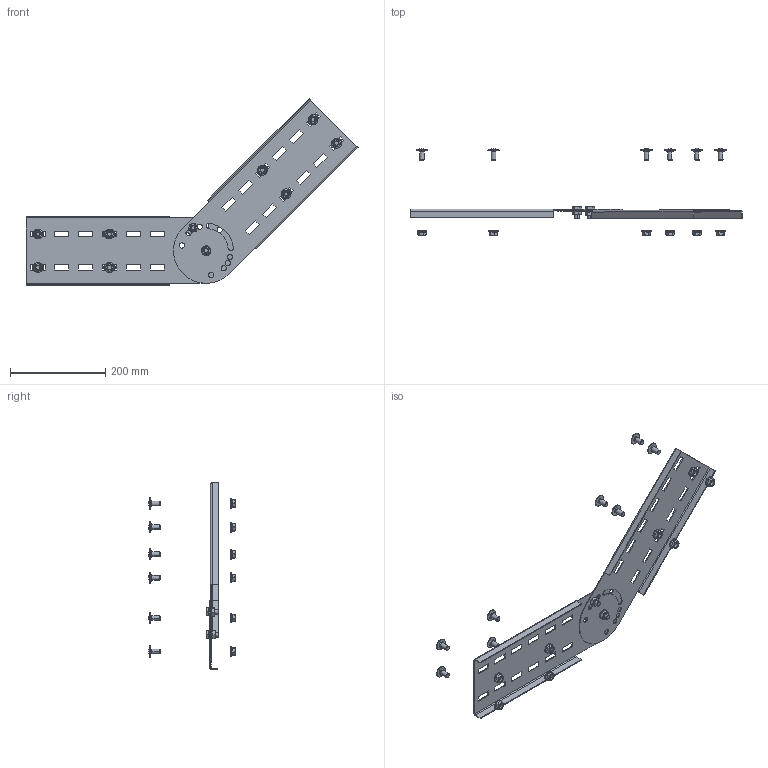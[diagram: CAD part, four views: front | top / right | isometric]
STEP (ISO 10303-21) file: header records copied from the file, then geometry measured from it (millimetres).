
FILE_DESCRIPTION(('Creo Elements/Direct Modeling STEP Export'),'2;1');
FILE_NAME('WPCV15-HDG.stp','2016-08-24T11:49:38',(''),(''),'PTC Creo Elements/Direct Modeling STEP processor for AP214 (Solid Model)','PTC Creo Elements/Direct Modeling 19.0C 15-Aug-2015 (C) Parametric Technology GmbH','');
FILE_SCHEMA(('AUTOMOTIVE_DESIGN { 1 0 10303 214 1 1 1 1 }'));
Length unit declared in the file: millimetre
Products named in the file (7): WPVV-L150; SES_10x20F.1; FR12; SEM_10F.1; FRSV_10x20; SEMS_10.2.2.1; WPCV15-HDG
Assembly tree (23 placements, depth 2):
  WPCV15-HDG
    SEM_10F.1  x2
    SEMS_10.2.2.1  x8
    FRSV_10x20  x8
    FR12
    SES_10x20F.1  x2
    WPVV-L150  x2
Bounding box: 695.7 x 182.25 x 390.7 mm (x, y, z)
Volume: 303310.6 mm3; surface area: 297785.9 mm2
Topology: 23 solids, 23 shells, 706 faces, 1756 edges, 1092 vertices
Faces by surface type: plane 344, cylinder 162, cone 124, bspline 60, sphere 16
Entity records: 13707 total; most frequent: CARTESIAN_POINT 6670, ORIENTED_EDGE 1562, DIRECTION 1002, EDGE_CURVE 781, VERTEX_POINT 494, VECTOR 374, LINE 374, EDGE_LOOP 355
